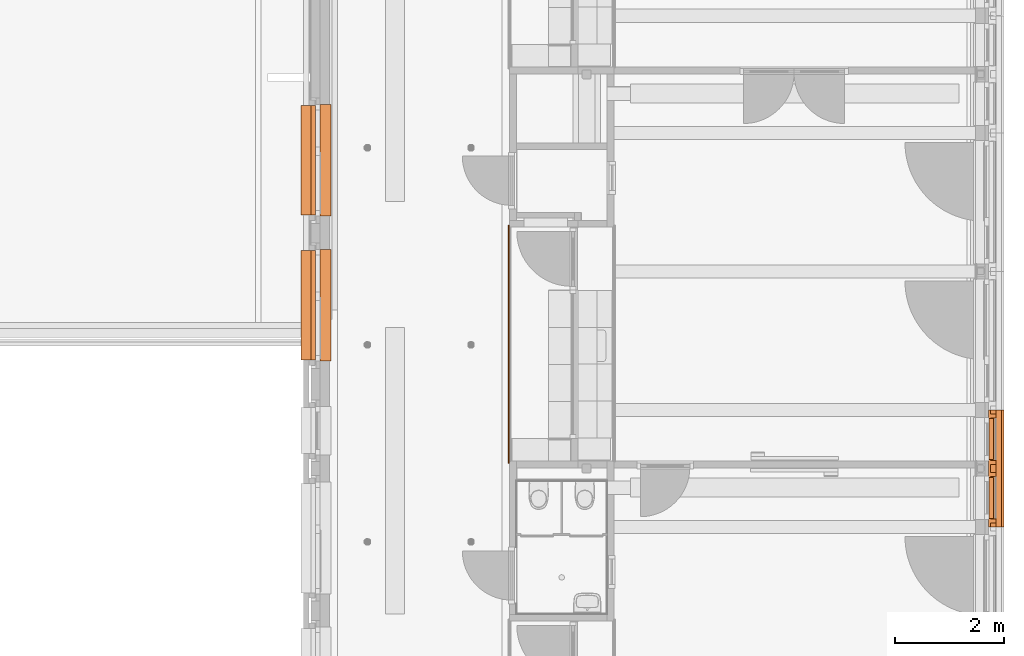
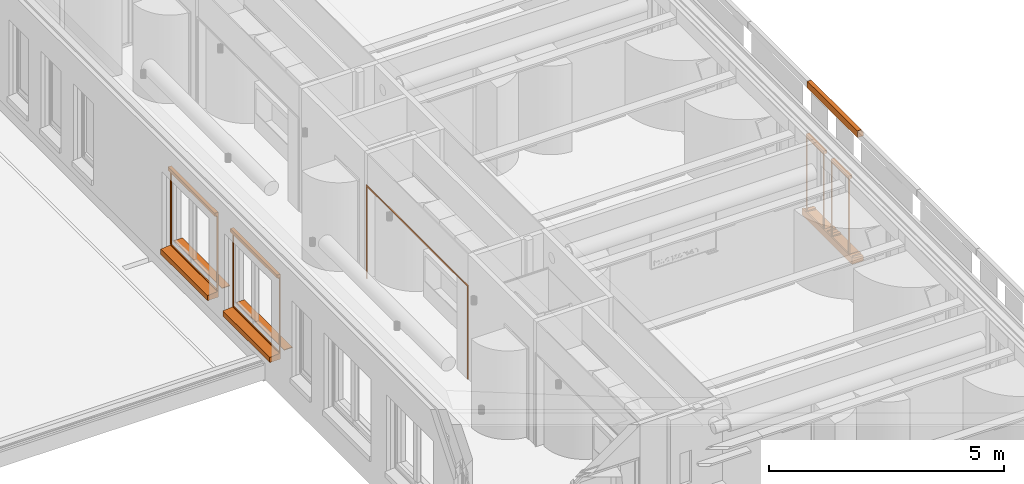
# One storey, part 101 of 128: 11 proxies.
"""IFC2X3 building model written with IfcOpenShell, lengths in millimetres."""

from ifc_helpers import new_model, entity, si_unit, converted_unit, derived_unit, direction, frame, frame_2d, origin, origin_2d_with_axis, place, context, subcontext, project, spatial, polyline, circle_curve, parameter, trimmed, segment, composite_curve, rectangle, outline, extrude, source, transform, mapped, material, material_list, type_object, type_shapes, element, save


model = new_model("IFC2X3")

# Units and contexts
model_context = context("Model", 3, precision=0.01, world=origin(), true_north=direction((6.123031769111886e-17, 1.0)))
body_context = subcontext(model_context, "Body", "Model", "MODEL_VIEW")
ifc_project = project(units=[si_unit("LENGTHUNIT", "METRE", prefix="MILLI"), si_unit("AREAUNIT", "SQUARE_METRE"), si_unit("VOLUMEUNIT", "CUBIC_METRE"), converted_unit("PLANEANGLEUNIT", "DEGREE", entity("IfcRatioMeasure", 0.017453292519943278), si_unit("PLANEANGLEUNIT", "RADIAN"), dimensions=[0, 0, 0, 0, 0, 0, 0]), si_unit("MASSUNIT", "GRAM", prefix="KILO"), derived_unit("MASSDENSITYUNIT", [(si_unit("MASSUNIT", "GRAM", prefix="KILO"), 1), (si_unit("LENGTHUNIT", "METRE"), -3)]), derived_unit("IONCONCENTRATIONUNIT", [(si_unit("MASSUNIT", "GRAM", prefix="KILO"), 1), (si_unit("LENGTHUNIT", "METRE"), -3)]), derived_unit("MOMENTOFINERTIAUNIT", [(si_unit("LENGTHUNIT", "METRE"), 4)]), si_unit("TIMEUNIT", "SECOND"), si_unit("FREQUENCYUNIT", "HERTZ"), si_unit("THERMODYNAMICTEMPERATUREUNIT", "DEGREE_CELSIUS"), derived_unit("THERMALTRANSMITTANCEUNIT", [(si_unit("MASSUNIT", "GRAM", prefix="KILO"), 1), (si_unit("THERMODYNAMICTEMPERATUREUNIT", "KELVIN"), -1), (si_unit("TIMEUNIT", "SECOND"), -3)]), derived_unit("THERMALCONDUCTANCEUNIT", [(si_unit("MASSUNIT", "GRAM", prefix="KILO"), 1), (si_unit("THERMODYNAMICTEMPERATUREUNIT", "KELVIN"), -1), (si_unit("TIMEUNIT", "SECOND"), -3), (si_unit("LENGTHUNIT", "METRE"), 1)]), derived_unit("VOLUMETRICFLOWRATEUNIT", [(si_unit("LENGTHUNIT", "METRE"), 3), (si_unit("TIMEUNIT", "SECOND"), -1)]), derived_unit("MASSFLOWRATEUNIT", [(si_unit("MASSUNIT", "GRAM", prefix="KILO"), 1), (si_unit("TIMEUNIT", "SECOND"), -1)]), derived_unit("ROTATIONALFREQUENCYUNIT", [(si_unit("TIMEUNIT", "SECOND"), -1)]), si_unit("ELECTRICCURRENTUNIT", "AMPERE"), si_unit("ELECTRICVOLTAGEUNIT", "VOLT"), si_unit("POWERUNIT", "WATT"), si_unit("FORCEUNIT", "NEWTON", prefix="KILO"), si_unit("ILLUMINANCEUNIT", "LUX"), si_unit("LUMINOUSFLUXUNIT", "LUMEN"), si_unit("LUMINOUSINTENSITYUNIT", "CANDELA"), derived_unit("USERDEFINED", [(si_unit("MASSUNIT", "GRAM", prefix="KILO"), -1), (si_unit("LENGTHUNIT", "METRE"), -2), (si_unit("TIMEUNIT", "SECOND"), 3), (si_unit("LUMINOUSFLUXUNIT", "LUMEN"), 1)]), derived_unit("USERDEFINED", [(si_unit("MASSUNIT", "GRAM", prefix="KILO"), 1), (si_unit("TIMEUNIT", "SECOND"), -3), (si_unit("LENGTHUNIT", "METRE"), 3), (si_unit("ELECTRICCURRENTUNIT", "AMPERE"), -2)]), derived_unit("SOUNDPOWERUNIT", [(si_unit("MASSUNIT", "GRAM", prefix="KILO"), 1), (si_unit("TIMEUNIT", "SECOND"), -3), (si_unit("LENGTHUNIT", "METRE"), 2)]), derived_unit("SOUNDPRESSUREUNIT", [(si_unit("MASSUNIT", "GRAM", prefix="KILO"), 1), (si_unit("LENGTHUNIT", "METRE"), -1), (si_unit("TIMEUNIT", "SECOND"), -2)]), derived_unit("LINEARVELOCITYUNIT", [(si_unit("LENGTHUNIT", "METRE"), 1), (si_unit("TIMEUNIT", "SECOND"), -1)]), si_unit("PRESSUREUNIT", "PASCAL"), derived_unit("USERDEFINED", [(si_unit("MASSUNIT", "GRAM", prefix="KILO"), 1), (si_unit("LENGTHUNIT", "METRE"), -2), (si_unit("TIMEUNIT", "SECOND"), -2)]), derived_unit("LINEARFORCEUNIT", [(si_unit("MASSUNIT", "GRAM", prefix="KILO"), 1), (si_unit("TIMEUNIT", "SECOND"), -2)]), derived_unit("PLANARFORCEUNIT", [(si_unit("MASSUNIT", "GRAM", prefix="KILO"), 1), (si_unit("LENGTHUNIT", "METRE"), -1), (si_unit("TIMEUNIT", "SECOND"), -2)]), derived_unit("SPECIFICHEATCAPACITYUNIT", [(si_unit("THERMODYNAMICTEMPERATUREUNIT", "KELVIN"), -1), (si_unit("LENGTHUNIT", "METRE"), 2), (si_unit("TIMEUNIT", "SECOND"), -2)]), derived_unit("HEATINGVALUEUNIT", [(si_unit("LENGTHUNIT", "METRE"), 2), (si_unit("TIMEUNIT", "SECOND"), -2)]), derived_unit("VAPORPERMEABILITYUNIT", [(si_unit("LENGTHUNIT", "METRE"), -1), (si_unit("TIMEUNIT", "SECOND"), 1)]), derived_unit("DYNAMICVISCOSITYUNIT", [(si_unit("MASSUNIT", "GRAM", prefix="KILO"), 1), (si_unit("TIMEUNIT", "SECOND"), -1), (si_unit("LENGTHUNIT", "METRE"), -1)]), derived_unit("THERMALEXPANSIONCOEFFICIENTUNIT", [(si_unit("THERMODYNAMICTEMPERATUREUNIT", "KELVIN"), -1)]), derived_unit("MODULUSOFELASTICITYUNIT", [(si_unit("MASSUNIT", "GRAM", prefix="KILO"), 1), (si_unit("LENGTHUNIT", "METRE"), -1), (si_unit("TIMEUNIT", "SECOND"), -2)]), derived_unit("ISOTHERMALMOISTURECAPACITYUNIT", [(si_unit("LENGTHUNIT", "METRE"), 3), (si_unit("MASSUNIT", "GRAM", prefix="KILO"), -1)]), derived_unit("MOISTUREDIFFUSIVITYUNIT", [(si_unit("TIMEUNIT", "SECOND"), -1), (si_unit("LENGTHUNIT", "METRE"), 2)])], contexts=[model_context])

# Site, building, storey
site_placement = place(None, frame((0.0, 300.0, 0.0)))
site = spatial("IfcSite", under=ifc_project, at=site_placement, Name="<Kadastrale nummers>", CompositionType="ELEMENT")
building_placement = place(site_placement, origin())
building = spatial("IfcBuilding", under=site, at=building_placement, CompositionType="ELEMENT")
storey_placement = place(building_placement, frame((0.0, 0.0, 3560.0000331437)))
storey = spatial("IfcBuildingStorey", under=building, at=storey_placement, Name="01 eerste verdieping", CompositionType="ELEMENT", Elevation=3560.0000331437)

# Proxies
ifc_material_1 = material(Name="STAAL_RAL 7006")
ifc_material_2 = material(Name="<Unnamed>")
ifc_material_list = material_list([ifc_material_1, ifc_material_2])
building_element_proxy_type_1 = type_object("IfcBuildingElementProxyType", Name="31_DAT_Screen_zonwering_bak85:31_DAT_Screen_zonwering_bak85", PredefinedType="NOTDEFINED", material=ifc_material_list)
shared_shape_1 = source(origin(), body_context, "Body", "SweptSolid", [
    extrude(outline(polyline([(-60.69864841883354, -53.573897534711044), (20.695945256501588, -53.573897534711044), (20.695945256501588, 1.1216926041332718), (22.501351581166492, 1.1216926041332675), (22.501351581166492, 24.626102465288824), (17.501351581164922, 24.626102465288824), (17.501351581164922, 27.826102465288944), (-60.69864841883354, 27.826102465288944), (-60.69864841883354, -53.573897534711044)])), frame((748.0, -29.62610246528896, 2752.501351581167), z_axis=(1.0, 0.0, 0.0), x_axis=(0.0, 0.0, -1.0)), (0.0, 0.0, 1.0), 1.9999999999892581),
    extrude(outline(polyline([(-55.83243227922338, -51.08259835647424), (29.167567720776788, -51.08259835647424), (29.167567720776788, 5.412991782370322), (27.362161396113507, 5.412991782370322), (27.362161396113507, -49.28259835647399), (-54.032432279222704, -49.28259835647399), (-54.032432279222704, 32.117401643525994), (24.16756772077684, 32.117401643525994), (24.16756772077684, 28.91740164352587), (29.167567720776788, 28.91740164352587), (29.167567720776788, 33.917401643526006), (-55.83243227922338, 33.917401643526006), (-55.83243227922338, -51.08259835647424)])), frame((0.0, -33.917401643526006, 2759.1675677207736), z_axis=(1.0, 0.0, 0.0), x_axis=(0.0, 0.0, -1.0)), (0.0, 0.0, 1.0), 749.9999999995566),
    extrude(outline(polyline([(-60.69864841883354, -53.573897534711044), (20.695945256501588, -53.573897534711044), (20.695945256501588, 1.1216926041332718), (22.501351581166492, 1.1216926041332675), (22.501351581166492, 24.626102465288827), (17.501351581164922, 24.626102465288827), (17.501351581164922, 27.826102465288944), (-60.69864841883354, 27.826102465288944), (-60.69864841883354, -53.573897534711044)])), frame((0.0, -29.62610246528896, 2752.501351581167), z_axis=(1.0, 0.0, 0.0), x_axis=(0.0, 0.0, -1.0)), (0.0, 0.0, 1.0), 1.999999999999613),
    extrude(rectangle(XDim=709.9999999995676, YDim=1.163311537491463, at=frame_2d((0.0, -2.1094237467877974e-15), x_axis=(1.0, 0.0))), frame((375.0, -20.037293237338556, 2730.0)), (0.0, 0.0, 1.0), 61.996041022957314),
    extrude(outline(composite_curve([segment(polyline([(-7.502327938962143, -23.023758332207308), (7.497672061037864, -23.023758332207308)]), True, "CONTINUOUS"), segment(trimmed(circle_curve(frame_2d((7.497672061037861, -21.523758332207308), x_axis=(0.0, -1.0)), 1.4999999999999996), [parameter(359.99999999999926)], [parameter(90.00000000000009)], True, "PARAMETER"), True, "CONTINUOUS"), segment(polyline([(8.997672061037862, -21.523758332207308), (8.997672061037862, 8.976241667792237)]), True, "CONTINUOUS"), segment(trimmed(circle_curve(frame_2d((5.99767206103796, 8.976241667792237), x_axis=(0.0, -1.0)), 3.0), [parameter(90.00000000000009)], [parameter(172.84454900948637)], True, "PARAMETER"), True, "CONTINUOUS"), segment(polyline([(6.371357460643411, 11.952877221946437), (2.232090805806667, 12.470504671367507)]), True, "CONTINUOUS"), segment(trimmed(circle_curve(frame_2d((2.1399803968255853, 11.733933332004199), x_axis=(0.0, -1.0)), 0.7423083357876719), [parameter(172.87199730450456)], [parameter(323.5235343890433)], True, "PARAMETER"), True, "CONTINUOUS"), segment(trimmed(circle_curve(frame_2d((-0.0023279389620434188, 8.976241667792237), x_axis=(0.0, -1.0)), 2.75), [parameter(217.47327986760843)], [parameter(141.78969998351)], True, "PARAMETER"), False, "CONTINUOUS"), segment(trimmed(circle_curve(frame_2d((-2.144636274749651, 11.733933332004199), x_axis=(0.0, -1.0)), 0.7423083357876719), [parameter(39.207114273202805)], [parameter(187.12800269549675)], True, "PARAMETER"), True, "CONTINUOUS"), segment(polyline([(-2.2367466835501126, 12.470504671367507), (-6.376013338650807, 11.95287722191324)]), True, "CONTINUOUS"), segment(trimmed(circle_curve(frame_2d((-6.002327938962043, 8.976241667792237), x_axis=(0.0, -1.0)), 3.0), [parameter(187.1554509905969)], [parameter(269.9999999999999)], True, "PARAMETER"), True, "CONTINUOUS"), segment(polyline([(-9.002327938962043, 8.976241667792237), (-9.002327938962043, -21.523758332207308)]), True, "CONTINUOUS"), segment(trimmed(circle_curve(frame_2d((-7.502327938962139, -21.523758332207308), x_axis=(0.0, -1.0)), 1.5000000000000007), [parameter(269.9999999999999)], [parameter(359.9999999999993)], True, "PARAMETER"), True, "CONTINUOUS")], self_intersect=False)), frame((20.0, -19.997672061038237, 2785.0197993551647), z_axis=(1.0, 0.0, 0.0), x_axis=(0.0, 1.0, 0.0)), (0.0, 0.0, 1.0), 709.9999999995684),
    extrude(outline(polyline([(-14.638298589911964, -16.231574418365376), (-13.138298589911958, -16.231574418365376), (-13.138298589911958, 12.232729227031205), (-6.116685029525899, 12.232729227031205), (-6.116685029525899, -6.231574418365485), (-1.116685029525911, -6.231574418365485), (-1.116685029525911, -4.769580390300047), (-4.579546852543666, -4.769580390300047), (-4.579546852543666, 12.23272922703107), (13.86611127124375, 12.23272922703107), (13.86611127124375, -4.769580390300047), (10.36170141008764, -4.769580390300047), (10.36170141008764, -6.2315744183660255), (15.36170141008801, -6.2315744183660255), (15.36170141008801, 13.768425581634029), (-14.638298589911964, 13.768425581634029), (-14.638298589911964, -16.231574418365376)])), frame((736.2315744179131, -14.638298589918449, 800.0), z_axis=(0.0, 0.0, 1.0), x_axis=(0.0, -1.0, 0.0)), (0.0, 0.0, 1.0), 1930.000000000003),
    extrude(outline(polyline([(-16.231574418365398, -14.638298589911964), (13.768425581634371, -14.638298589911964), (13.76842558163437, 15.361701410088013), (-6.231574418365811, 15.361701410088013), (-6.231574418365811, 10.361701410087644), (-4.769580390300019, 10.361701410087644), (-4.769580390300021, 13.866111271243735), (12.2327292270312, 13.866111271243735), (12.2327292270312, -4.57954685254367), (-4.769580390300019, -4.57954685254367), (-4.769580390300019, -1.1166850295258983), (-6.231574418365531, -1.1166850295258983), (-6.231574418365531, -6.116685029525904), (12.232729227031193, -6.116685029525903), (12.232729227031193, -13.138298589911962), (-16.231574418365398, -13.138298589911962), (-16.231574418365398, -14.638298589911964)])), frame((13.768425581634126, -14.638298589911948, 800.0), z_axis=(0.0, 0.0, 1.0), x_axis=(-1.0, 0.0, 0.0)), (0.0, 0.0, 1.0), 1930.0000000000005),
])
type_shapes(building_element_proxy_type_1, [shared_shape_1])
for number, where, z_axis, x_axis, name in (
    (1, (48751.0, 16660.0, 100.00000187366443), (0.0, 0.0, 1.0), (0.0, 1.0, 0.0), "31_DAT_Screen_zonwering_bak85:31_DAT_Screen_zonwering_bak85"),
    (2, (48751.0, 15590.0, 100.00000187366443), (0.0, 0.0, 1.0), (0.0, 1.0, 0.0), "31_DAT_Screen_zonwering_bak85:31_DAT_Screen_zonwering_bak85"),
):
    element("IfcBuildingElementProxy", number, at=place(storey_placement, frame(where, z_axis=z_axis, x_axis=x_axis)), inside=storey, type_object=building_element_proxy_type_1, material=ifc_material_list, Name=name, ObjectType="31_DAT_Screen_zonwering_bak85:31_DAT_Screen_zonwering_bak85", context=body_context, shape_type="MappedRepresentation", body=[
        mapped(shared_shape_1, transform((0.0, 0.0, 0.0), scale=1.0)),
    ])
ifc_material_3 = material(Name="ISR_Beton_prefab")
building_element_proxy_type_2 = type_object("IfcBuildingElementProxyType", Name="29_DAT_Prefab betonnen waterslag kort:29_DAT_Prefab betonnen waterslag kort", PredefinedType="NOTDEFINED", material=ifc_material_3)
shared_shape_2 = source(origin(), body_context, "Body", "SweptSolid", [
    extrude(outline(composite_curve([segment(polyline([(-137.5, -95.62465990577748), (-107.49999999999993, -95.62465990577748)]), True, "CONTINUOUS"), segment(polyline([(-107.49999999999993, -95.62465990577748), (-107.49999999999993, -73.62465990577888)]), True, "CONTINUOUS"), segment(polyline([(-107.49999999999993, -73.62465990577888), (132.50000000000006, -52.627380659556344)]), True, "CONTINUOUS"), segment(polyline([(132.5, -52.627380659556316), (132.5, 79.37534009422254)]), True, "CONTINUOUS"), segment(polyline([(132.5, 79.37534009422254), (117.49999999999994, 79.37534009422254)]), True, "CONTINUOUS"), segment(trimmed(circle_curve(frame_2d((112.49999999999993, 79.37534009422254), x_axis=(1.0, 0.0)), 5.000000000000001), [parameter(179.99999999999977)], [parameter(359.9999999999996)], True, "PARAMETER"), False, "CONTINUOUS"), segment(polyline([(107.49999999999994, 79.37534009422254), (-137.5, 79.37534009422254)]), True, "CONTINUOUS"), segment(polyline([(-137.5, 79.37534009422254), (-137.5, -95.62465990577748)]), True, "CONTINUOUS")], self_intersect=False)), frame((0.0, 82.50000000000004, -95.62465990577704), z_axis=(1.0, 0.0, 0.0), x_axis=(0.0, -1.0, 0.0)), (0.0, 0.0, 1.0), 2000.0000000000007),
])
type_shapes(building_element_proxy_type_2, [shared_shape_2])
for number, where, z_axis, x_axis, name in (
    (3, (36235.0, 20480.0, 890.000001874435), (0.0, 0.0, 1.0), (0.0, -1.0, 0.0), "29_DAT_Prefab betonnen waterslag kort:29_DAT_Prefab betonnen waterslag kort"),
    (4, (36235.0, 23130.0, 890.000001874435), (0.0, 0.0, 1.0), (0.0, -1.0, 0.0), "29_DAT_Prefab betonnen waterslag kort:29_DAT_Prefab betonnen waterslag kort"),
):
    element("IfcBuildingElementProxy", number, at=place(storey_placement, frame(where, z_axis=z_axis, x_axis=x_axis)), inside=storey, type_object=building_element_proxy_type_2, material=ifc_material_3, Name=name, ObjectType="29_DAT_Prefab betonnen waterslag kort:29_DAT_Prefab betonnen waterslag kort", context=body_context, shape_type="MappedRepresentation", body=[
        mapped(shared_shape_2, transform((0.0, 0.0, 0.0), scale=1.0)),
    ])
building_element_proxy_type_3 = type_object("IfcBuildingElementProxyType", Name="31_DAT_Screen_zonwering_bak85:31_DAT_Screen_zonwering_bak85", PredefinedType="NOTDEFINED", material=ifc_material_list)
shared_shape_3 = source(origin(), body_context, "Body", "SweptSolid", [
    extrude(outline(polyline([(-60.69864841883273, -53.573897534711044), (20.695945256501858, -53.573897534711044), (20.695945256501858, 1.1216926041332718), (22.501351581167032, 1.1216926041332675), (22.501351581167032, 24.626102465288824), (17.501351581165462, 24.626102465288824), (17.501351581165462, 27.826102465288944), (-60.69864841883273, 27.826102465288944), (-60.69864841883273, -53.573897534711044)])), frame((1998.0, -29.62610246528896, 2422.501351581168), z_axis=(1.0, 0.0, 0.0), x_axis=(0.0, 0.0, -1.0)), (0.0, 0.0, 1.0), 1.9999999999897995),
    extrude(outline(polyline([(-55.83243227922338, -51.08259835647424), (29.167567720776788, -51.08259835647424), (29.167567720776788, 5.412991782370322), (27.362161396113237, 5.412991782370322), (27.362161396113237, -49.28259835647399), (-54.032432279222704, -49.28259835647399), (-54.032432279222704, 32.117401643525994), (24.16756772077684, 32.117401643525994), (24.16756772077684, 28.91740164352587), (29.167567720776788, 28.91740164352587), (29.167567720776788, 33.917401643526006), (-55.83243227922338, 33.917401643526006), (-55.83243227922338, -51.08259835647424)])), frame((0.0, -33.917401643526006, 2429.1675677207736), z_axis=(1.0, 0.0, 0.0), x_axis=(0.0, 0.0, -1.0)), (0.0, 0.0, 1.0), 1999.999999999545),
    extrude(outline(polyline([(-60.69864841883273, -53.573897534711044), (20.695945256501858, -53.573897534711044), (20.695945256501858, 1.1216926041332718), (22.501351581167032, 1.1216926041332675), (22.501351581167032, 24.626102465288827), (17.501351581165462, 24.626102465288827), (17.501351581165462, 27.826102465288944), (-60.69864841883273, 27.826102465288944), (-60.69864841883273, -53.573897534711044)])), frame((0.0, -29.62610246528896, 2422.501351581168), z_axis=(1.0, 0.0, 0.0), x_axis=(0.0, 0.0, -1.0)), (0.0, 0.0, 1.0), 1.999999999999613),
    extrude(rectangle(XDim=1959.9999999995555, YDim=1.163311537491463, at=frame_2d((0.0, -2.1094237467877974e-15), x_axis=(1.0, 0.0))), frame((1000.0, -20.037293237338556, 2382.3606486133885)), (0.0, 0.0, 1.0), 17.639351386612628),
    extrude(outline(composite_curve([segment(polyline([(-7.5023279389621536, -23.023758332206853), (7.4976720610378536, -23.023758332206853)]), True, "CONTINUOUS"), segment(trimmed(circle_curve(frame_2d((7.49767206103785, -21.523758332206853), x_axis=(0.0, -1.0)), 1.4999999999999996), [parameter(359.99999999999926)], [parameter(90.00000000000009)], True, "PARAMETER"), True, "CONTINUOUS"), segment(polyline([(8.997672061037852, -21.523758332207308), (8.997672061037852, 8.976241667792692)]), True, "CONTINUOUS"), segment(trimmed(circle_curve(frame_2d((5.9976720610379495, 8.976241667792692), x_axis=(0.0, -1.0)), 3.0), [parameter(90.00000000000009)], [parameter(172.84454900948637)], True, "PARAMETER"), True, "CONTINUOUS"), segment(polyline([(6.3713574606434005, 11.952877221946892), (2.2320908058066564, 12.470504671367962)]), True, "CONTINUOUS"), segment(trimmed(circle_curve(frame_2d((2.1399803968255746, 11.733933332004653), x_axis=(0.0, -1.0)), 0.7423083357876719), [parameter(172.87199730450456)], [parameter(323.5235343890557)], True, "PARAMETER"), True, "CONTINUOUS"), segment(trimmed(circle_curve(frame_2d((-0.002327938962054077, 8.976241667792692), x_axis=(0.0, -1.0)), 2.75), [parameter(217.47327986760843)], [parameter(141.78969998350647)], True, "PARAMETER"), False, "CONTINUOUS"), segment(trimmed(circle_curve(frame_2d((-2.1446362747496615, 11.733933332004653), x_axis=(0.0, -1.0)), 0.7423083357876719), [parameter(39.207114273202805)], [parameter(187.12800269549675)], True, "PARAMETER"), True, "CONTINUOUS"), segment(polyline([(-2.2367466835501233, 12.470504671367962), (-6.376013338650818, 11.952877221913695)]), True, "CONTINUOUS"), segment(trimmed(circle_curve(frame_2d((-6.002327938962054, 8.976241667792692), x_axis=(0.0, -1.0)), 3.0), [parameter(187.1554509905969)], [parameter(269.9999999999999)], True, "PARAMETER"), True, "CONTINUOUS"), segment(polyline([(-9.002327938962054, 8.976241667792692), (-9.002327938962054, -21.523758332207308)]), True, "CONTINUOUS"), segment(trimmed(circle_curve(frame_2d((-7.50232793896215, -21.523758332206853), x_axis=(0.0, -1.0)), 1.5000000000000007), [parameter(269.9999999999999)], [parameter(359.9999999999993)], True, "PARAMETER"), True, "CONTINUOUS")], self_intersect=False)), frame((20.0, -19.997672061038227, 2375.3844069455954), z_axis=(1.0, 0.0, 0.0), x_axis=(0.0, 1.0, 0.0)), (0.0, 0.0, 1.0), 1959.999999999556),
    extrude(outline(polyline([(-14.638298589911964, -16.231574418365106), (-13.138298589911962, -16.231574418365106), (-13.138298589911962, 12.23272922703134), (-6.116685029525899, 12.23272922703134), (-6.116685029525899, -6.231574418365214), (-1.116685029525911, -6.231574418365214), (-1.116685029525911, -4.769580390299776), (-4.579546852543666, -4.769580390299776), (-4.579546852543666, 12.23272922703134), (13.86611127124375, 12.23272922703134), (13.86611127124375, -4.769580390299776), (10.36170141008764, -4.769580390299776), (10.36170141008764, -6.2315744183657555), (15.36170141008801, -6.2315744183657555), (15.36170141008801, 13.7684255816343), (-14.638298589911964, 13.7684255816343), (-14.638298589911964, -16.231574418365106)])), frame((1986.2315744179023, -14.638298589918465, 450.0), z_axis=(0.0, 0.0, 1.0), x_axis=(0.0, -1.0, 0.0)), (0.0, 0.0, 1.0), 1950.0000000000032),
    extrude(outline(polyline([(-16.231574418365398, -14.638298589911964), (13.768425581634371, -14.638298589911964), (13.76842558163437, 15.361701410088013), (-6.231574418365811, 15.361701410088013), (-6.231574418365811, 10.361701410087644), (-4.769580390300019, 10.361701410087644), (-4.769580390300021, 13.866111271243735), (12.2327292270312, 13.866111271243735), (12.2327292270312, -4.57954685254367), (-4.769580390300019, -4.57954685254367), (-4.769580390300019, -1.1166850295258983), (-6.231574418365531, -1.1166850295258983), (-6.231574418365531, -6.116685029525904), (12.232729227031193, -6.116685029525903), (12.232729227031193, -13.138298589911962), (-16.231574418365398, -13.138298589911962), (-16.231574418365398, -14.638298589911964)])), frame((13.768425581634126, -14.638298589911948, 450.0), z_axis=(0.0, 0.0, 1.0), x_axis=(-1.0, 0.0, 0.0)), (0.0, 0.0, 1.0), 1950.0000000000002),
])
type_shapes(building_element_proxy_type_3, [shared_shape_3])
for number, where, z_axis, x_axis, name in (
    (5, (36448.99862327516, 20480.0, 440.0000018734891), (0.0, 0.0, 1.0), (0.0, -1.0, 0.0), "31_DAT_Screen_zonwering_bak85:31_DAT_Screen_zonwering_bak85"),
    (6, (36448.99862327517, 23130.0, 440.0000018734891), (0.0, 0.0, 1.0), (0.0, -1.0, 0.0), "31_DAT_Screen_zonwering_bak85:31_DAT_Screen_zonwering_bak85"),
):
    element("IfcBuildingElementProxy", number, at=place(storey_placement, frame(where, z_axis=z_axis, x_axis=x_axis)), inside=storey, type_object=building_element_proxy_type_3, material=ifc_material_list, Name=name, ObjectType="31_DAT_Screen_zonwering_bak85:31_DAT_Screen_zonwering_bak85", context=body_context, shape_type="MappedRepresentation", body=[
        mapped(shared_shape_3, transform((0.0, 0.0, 0.0), scale=1.0)),
    ])
ifc_material_4 = material(Name="e1_natuursteen")
building_element_proxy_type_4 = type_object("IfcBuildingElementProxyType", Name="NLRS_31_GM_WPB_vensterbank natuursteen -SH_gen_ASN:200x18", PredefinedType="USERDEFINED", material=ifc_material_4)
shared_shape_4 = source(origin(), body_context, "Body", "SweptSolid", [
    extrude(rectangle(XDim=200.0, YDim=2040.0000000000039, at=origin_2d_with_axis()), frame((0.0, -100.0, 0.0), z_axis=(0.0, 0.0, 1.0), x_axis=(0.0, -1.0, 0.0)), (0.0, 0.0, 1.0), 17.999999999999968),
])
type_shapes(building_element_proxy_type_4, [shared_shape_4])
for number, where, z_axis, x_axis, name in (
    (7, (36530.0, 19480.0, 920.0000018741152), (0.0, 0.0, 1.0), (0.0, 1.0, 0.0), "NLRS_31_GM_WPB_vensterbank natuursteen -SH_gen_ASN:200x18"),
    (8, (36530.0, 22130.0, 920.0000018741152), (0.0, 0.0, 1.0), (0.0, 1.0, 0.0), "NLRS_31_GM_WPB_vensterbank natuursteen -SH_gen_ASN:200x18"),
):
    element("IfcBuildingElementProxy", number, at=place(storey_placement, frame(where, z_axis=z_axis, x_axis=x_axis)), inside=storey, type_object=building_element_proxy_type_4, material=ifc_material_4, Name=name, ObjectType="NLRS_31_GM_WPB_vensterbank natuursteen -SH_gen_ASN:200x18", context=body_context, shape_type="MappedRepresentation", body=[
        mapped(shared_shape_4, transform((0.0, 0.0, 0.0), scale=1.0)),
    ])

# Space
space_placement = place(storey_placement, origin())
space = spatial("IfcSpace", under=storey, at=space_placement, Name="1.20", CompositionType="ELEMENT", InteriorOrExteriorSpace="INTERNAL")

# Proxies
ifc_material_5 = material(Name="ISR_HPL Kleur hout")
building_element_proxy_type_5 = type_object("IfcBuildingElementProxyType", Name="82_DAT_Trimlat om element:82_DAT_Trimlat om element", PredefinedType="NOTDEFINED", material=ifc_material_5)
shared_shape_5 = source(origin(), body_context, "Body", "SweptSolid", [
    extrude(rectangle(XDim=19.999999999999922, YDim=34.99999999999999, at=origin_2d_with_axis()), frame((-17.500000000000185, -10.0, 0.0), z_axis=(0.0, 0.0, 1.0), x_axis=(0.0, 1.0, 0.0)), (0.0, 0.0, 1.0), 2400.000000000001),
    extrude(rectangle(XDim=20.000000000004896, YDim=34.99999999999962, at=frame_2d((0.0, -5.400124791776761e-13), x_axis=(1.0, 0.0))), frame((4292.49999999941, -10.0, 0.0), z_axis=(0.0, 0.0, 1.0), x_axis=(0.0, 1.0, 0.0)), (0.0, 0.0, 1.0), 2400.000000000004),
    extrude(rectangle(XDim=19.99999999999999, YDim=4344.999999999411, at=frame_2d((0.0, -2.2737367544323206e-13), x_axis=(1.0, 0.0))), frame((2137.499999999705, -10.0, 2400.0), z_axis=(0.0, 0.0, 1.0), x_axis=(0.0, 1.0, 0.0)), (0.0, 0.0, 1.0), 34.99999999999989),
])
type_shapes(building_element_proxy_type_5, [shared_shape_5])
proxy_1_placement = place(space_placement, frame((39989.99339828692, 20909.997246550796, 90.00000187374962), z_axis=(0.0, 0.0, 1.0), x_axis=(0.0, -1.0, 0.0)))
element("IfcBuildingElementProxy", 9, at=proxy_1_placement, inside=space, type_object=building_element_proxy_type_5, material=ifc_material_5, Name="82_DAT_Trimlat om element:82_DAT_Trimlat om element", ObjectType="82_DAT_Trimlat om element:82_DAT_Trimlat om element", context=body_context, shape_type="MappedRepresentation", body=[
    mapped(shared_shape_5, transform((0.0, 0.0, 0.0), scale=1.0)),
])
building_element_proxy_type_6 = type_object("IfcBuildingElementProxyType", Name="29_DAT_Prefab betonnen waterslag lang:29 dubbel 1", PredefinedType="NOTDEFINED", material=ifc_material_3)
shared_shape_6 = source(origin(), body_context, "Body", "SweptSolid", [
    extrude(outline(polyline([(-16.052237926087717, -115.0), (26.113434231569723, -115.0), (5.9910416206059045, 115.0), (-16.052237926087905, 115.0), (-16.052237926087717, -115.0)])), frame((1987.0, 75.0, -16.05223792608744), z_axis=(1.0, 0.0, 0.0), x_axis=(0.0, 0.0, -1.0)), (0.0, 0.0, 1.0), 79.99999999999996),
    extrude(outline(polyline([(-16.052237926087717, -115.0), (26.113434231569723, -115.0), (5.9910416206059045, 115.0), (-16.052237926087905, 115.0), (-16.052237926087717, -115.0)])), frame((1137.0, 75.0, -16.05223792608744), z_axis=(1.0, 0.0, 0.0), x_axis=(0.0, 0.0, -1.0)), (0.0, 0.0, 1.0), 79.99999999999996),
    extrude(outline(polyline([(-16.052237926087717, -115.0), (26.113434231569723, -115.0), (5.9910416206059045, 115.0), (-16.052237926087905, 115.0), (-16.052237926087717, -115.0)])), frame((917.0, 75.0, -16.05223792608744), z_axis=(1.0, 0.0, 0.0), x_axis=(0.0, 0.0, -1.0)), (0.0, 0.0, 1.0), 79.99999999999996),
    extrude(outline(polyline([(-16.052237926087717, -115.0), (26.113434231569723, -115.0), (5.9910416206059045, 115.0), (-16.052237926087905, 115.0), (-16.052237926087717, -115.0)])), frame((67.0, 75.0, -16.05223792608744), z_axis=(1.0, 0.0, 0.0), x_axis=(0.0, 0.0, -1.0)), (0.0, 0.0, 1.0), 80.00000000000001),
    extrude(outline(composite_curve([segment(polyline([(-140.0, -95.7340207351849), (-110.0, -95.7340207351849)]), True, "CONTINUOUS"), segment(polyline([(-110.0, -95.7340207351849), (-110.0, -73.7340207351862)]), True, "CONTINUOUS"), segment(polyline([(-110.0, -73.7340207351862), (140.0, -51.861854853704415)]), True, "CONTINUOUS"), segment(polyline([(140.0, -51.86185485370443), (140.0, 79.26597926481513)]), True, "CONTINUOUS"), segment(polyline([(140.0, 79.26597926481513), (115.0, 79.26597926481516)]), True, "CONTINUOUS"), segment(trimmed(circle_curve(frame_2d((110.0, 79.26597926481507), x_axis=(1.0, 0.0)), 5.000000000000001), [parameter(179.99999999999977)], [parameter(4.0711099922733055e-13)], True, "PARAMETER"), False, "CONTINUOUS"), segment(polyline([(105.0, 79.26597926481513), (-140.0, 79.26597926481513)]), True, "CONTINUOUS"), segment(polyline([(-140.0, 79.26597926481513), (-140.0, -95.7340207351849)]), True, "CONTINUOUS")], self_intersect=False)), frame((0.0, 80.0, -95.73402073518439), z_axis=(1.0, 0.0, 0.0), x_axis=(0.0, -1.0, 0.0)), (0.0, 0.0, 1.0), 2134.0000000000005),
])
type_shapes(building_element_proxy_type_6, [shared_shape_6])
proxy_2_placement = place(storey_placement, frame((48965.0, 15433.0, 890.0000018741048), z_axis=(0.0, 0.0, 1.0), x_axis=(0.0, 1.0, 0.0)))
element("IfcBuildingElementProxy", 10, at=proxy_2_placement, inside=storey, type_object=building_element_proxy_type_6, material=ifc_material_3, Name="29_DAT_Prefab betonnen waterslag lang:29 dubbel 1", ObjectType="29_DAT_Prefab betonnen waterslag lang:29 dubbel 1", context=body_context, shape_type="MappedRepresentation", body=[
    mapped(shared_shape_6, transform((0.0, 0.0, 0.0), scale=1.0)),
])
building_element_proxy_type_7 = type_object("IfcBuildingElementProxyType", Name="29_DAT_Prefab betonband afgeschuind:29_DAT_Prefab betonband afgeschuind", PredefinedType="NOTDEFINED", material=ifc_material_3)
shared_shape_7 = source(origin(), body_context, "Body", "SweptSolid", [
    extrude(outline(polyline([(-94.16666666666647, -83.33333333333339), (80.83333333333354, -83.33333333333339), (80.83333333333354, 16.66666666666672), (18.33333333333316, 16.666666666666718), (8.333333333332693, 66.66666666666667), (-94.16666666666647, 66.66666666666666), (-94.16666666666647, -83.33333333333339)])), frame((0.0, 16.66666666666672, -18.33333333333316), z_axis=(1.0, 0.0, 0.0), x_axis=(0.0, 0.0, 1.0)), (0.0, 0.0, 1.0), 2133.999999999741),
])
type_shapes(building_element_proxy_type_7, [shared_shape_7])
proxy_3_placement = place(storey_placement, frame((48975.0, 15433.0, 4077.499966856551), z_axis=(0.0, 0.0, 1.0), x_axis=(0.0, 1.0, 0.0)))
element("IfcBuildingElementProxy", 11, at=proxy_3_placement, inside=storey, type_object=building_element_proxy_type_7, material=ifc_material_3, Name="29_DAT_Prefab betonband afgeschuind:29_DAT_Prefab betonband afgeschuind", ObjectType="29_DAT_Prefab betonband afgeschuind:29_DAT_Prefab betonband afgeschuind", context=body_context, shape_type="MappedRepresentation", body=[
    mapped(shared_shape_7, transform((0.0, 0.0, 0.0), scale=1.0)),
])

save(model, "model.ifc")
